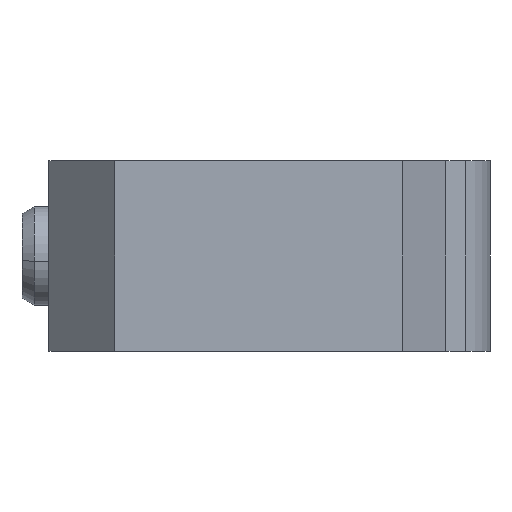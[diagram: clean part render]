
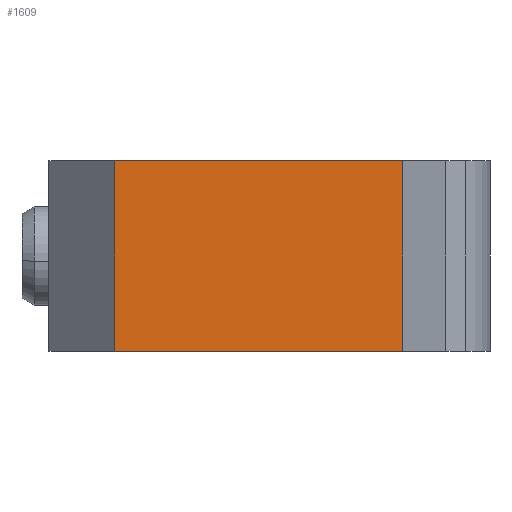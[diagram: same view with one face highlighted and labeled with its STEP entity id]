
A CAD part, left-side view. The second image highlights one B-rep face of the part: STEP entity #1609.
In plain terms, the highlighted planar face has unit normal (-1, 0, 0).
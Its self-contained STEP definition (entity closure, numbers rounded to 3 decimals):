
#3 = VERTEX_POINT ( 'NONE', #4355 ) ;
#4 = VERTEX_POINT ( 'NONE', #4424 ) ;
#42 = EDGE_CURVE ( 'NONE', #3, #4, #4433, .T. ) ;
#1609 = ADVANCED_FACE ( 'NONE', ( #5055 ), #5059, .F. ) ;
#1679 = EDGE_LOOP ( 'NONE', ( #1680, #1681, #1683, #1684 ) ) ;
#1680 = ORIENTED_EDGE ( 'NONE', *, *, #2034, .F. ) ;
#1681 = ORIENTED_EDGE ( 'NONE', *, *, #1682, .T. ) ;
#1682 = EDGE_CURVE ( 'NONE', #2032, #3, #5180, .T. ) ;
#1683 = ORIENTED_EDGE ( 'NONE', *, *, #42, .T. ) ;
#1684 = ORIENTED_EDGE ( 'NONE', *, *, #1685, .F. ) ;
#1685 = EDGE_CURVE ( 'NONE', #2035, #4, #5176, .T. ) ;
#2032 = VERTEX_POINT ( 'NONE', #5860 ) ;
#2034 = EDGE_CURVE ( 'NONE', #2032, #2035, #5859, .T. ) ;
#2035 = VERTEX_POINT ( 'NONE', #5855 ) ;
#4355 = CARTESIAN_POINT ( 'NONE',  ( -18.7, 39.528, 0. ) ) ;
#4424 = CARTESIAN_POINT ( 'NONE',  ( -18.7, 4.472, 0. ) ) ;
#4430 = DIRECTION ( 'NONE',  ( 0., -1., 0. ) ) ;
#4431 = VECTOR ( 'NONE', #4430, 1000. ) ;
#4432 = CARTESIAN_POINT ( 'NONE',  ( -18.7, 47.528, 0. ) ) ;
#4433 = LINE ( 'NONE', #4432, #4431 ) ;
#5050 = DIRECTION ( 'NONE',  ( 0., 1., 0. ) ) ;
#5051 = DIRECTION ( 'NONE',  ( 1., 0., 0. ) ) ;
#5052 = CARTESIAN_POINT ( 'NONE',  ( -18.7, 47.528, 23.2 ) ) ;
#5054 = AXIS2_PLACEMENT_3D ( 'NONE', #5052, #5051, #5050 ) ;
#5055 = FACE_OUTER_BOUND ( 'NONE', #1679, .T. ) ;
#5059 = PLANE ( 'NONE',  #5054 ) ;
#5173 = DIRECTION ( 'NONE',  ( 0., 0., -1. ) ) ;
#5174 = VECTOR ( 'NONE', #5173, 1000. ) ;
#5175 = CARTESIAN_POINT ( 'NONE',  ( -18.7, 4.472, 23.2 ) ) ;
#5176 = LINE ( 'NONE', #5175, #5174 ) ;
#5177 = DIRECTION ( 'NONE',  ( 0., 0., -1. ) ) ;
#5178 = VECTOR ( 'NONE', #5177, 1000. ) ;
#5179 = CARTESIAN_POINT ( 'NONE',  ( -18.7, 39.528, 23.2 ) ) ;
#5180 = LINE ( 'NONE', #5179, #5178 ) ;
#5855 = CARTESIAN_POINT ( 'NONE',  ( -18.7, 4.472, 23.2 ) ) ;
#5856 = DIRECTION ( 'NONE',  ( 0., -1., 0. ) ) ;
#5857 = VECTOR ( 'NONE', #5856, 1000. ) ;
#5858 = CARTESIAN_POINT ( 'NONE',  ( -18.7, 47.528, 23.2 ) ) ;
#5859 = LINE ( 'NONE', #5858, #5857 ) ;
#5860 = CARTESIAN_POINT ( 'NONE',  ( -18.7, 39.528, 23.2 ) ) ;
